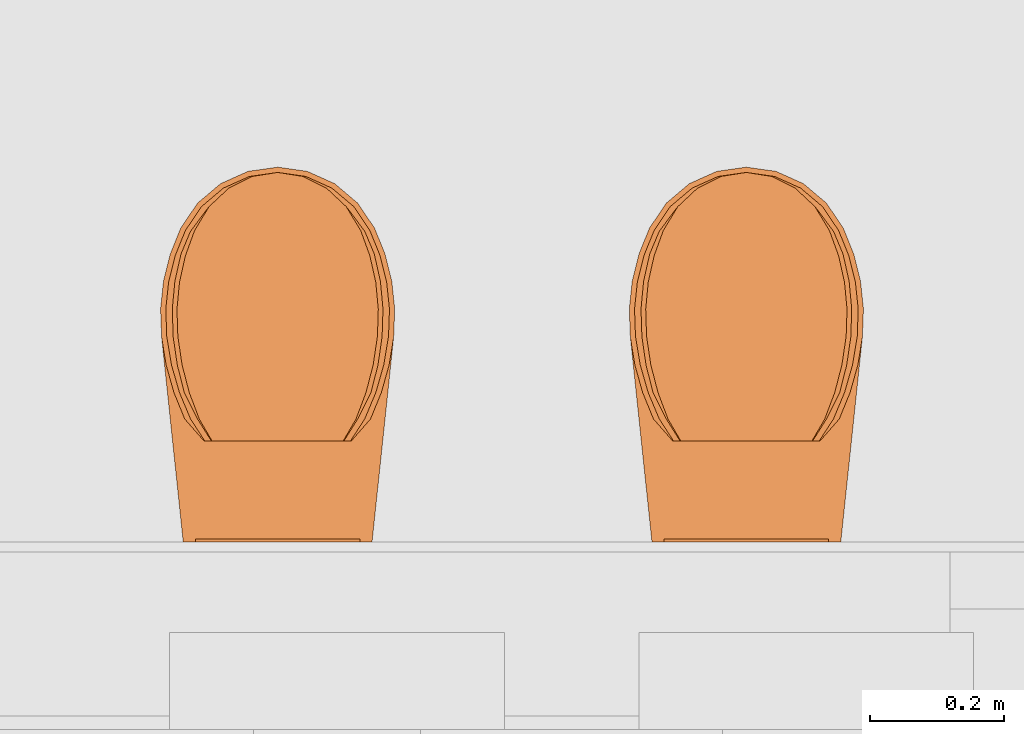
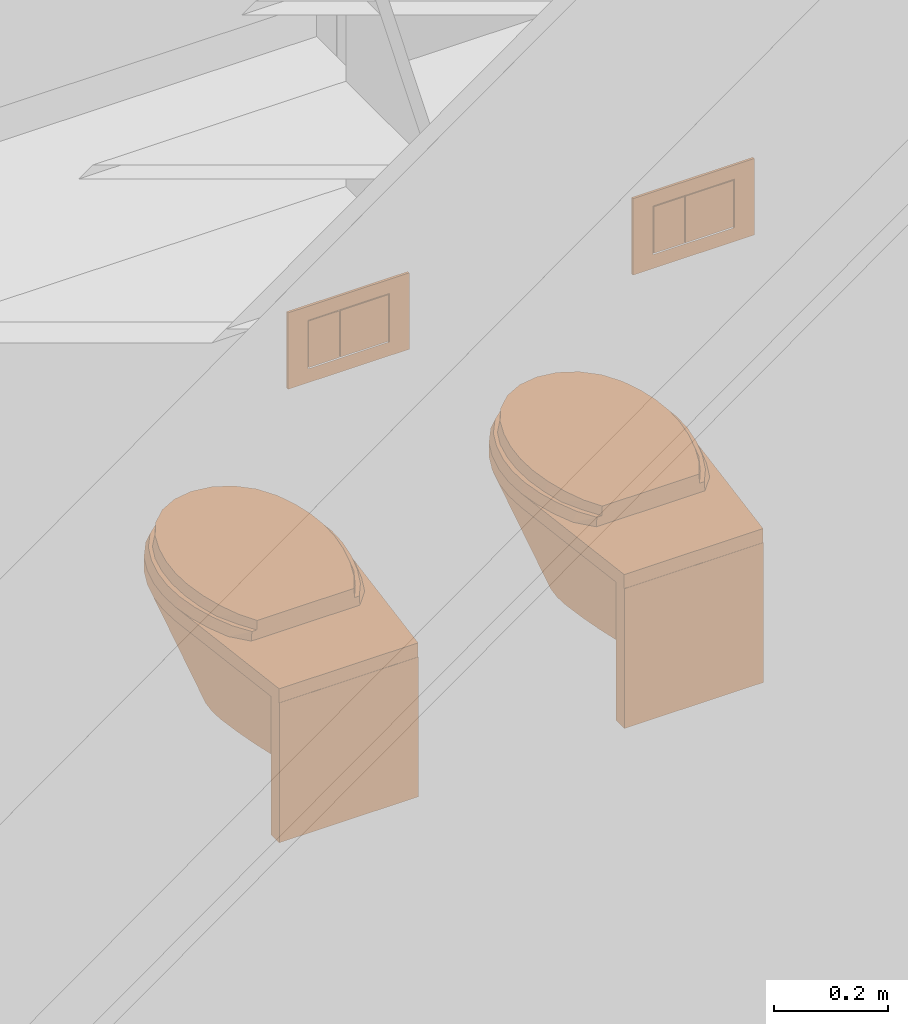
# One storey, part 109 of 167: 2 proxies.
"""IFC2X3 building model written with IfcOpenShell, lengths in millimetres."""

from ifc_helpers import new_model, entity, si_unit, converted_unit, derived_unit, money_unit, direction, frame, origin_with_axes, place, context, subcontext, project, spatial, open_shell, faceted_brep, surface_model, source, transform, mapped, type_object, type_shapes, element, save


model = new_model("IFC2X3")

# Units and contexts
model_context = context("Model", 3, precision=0.01, world=origin_with_axes(), true_north=direction((0.0, 1.0)))
plan_context = context("Plan", 3, precision=0.01, world=origin_with_axes(), true_north=direction((0.0, 1.0)))
body_context = subcontext(model_context, "Body", "Model", "MODEL_VIEW")
ifc_project = project(units=[si_unit("LENGTHUNIT", "METRE", prefix="MILLI"), si_unit("AREAUNIT", "SQUARE_METRE"), si_unit("VOLUMEUNIT", "CUBIC_METRE"), converted_unit("PLANEANGLEUNIT", "DEGREE", entity("IfcPlaneAngleMeasure", 0.0174532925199), si_unit("PLANEANGLEUNIT", "RADIAN"), dimensions=[0, 0, 0, 0, 0, 0, 0]), si_unit("SOLIDANGLEUNIT", "STERADIAN"), money_unit("EUR"), converted_unit("TIMEUNIT", "Year", entity("IfcTimeMeasure", 31556926.0), si_unit("TIMEUNIT", "SECOND"), dimensions=[0, 0, 1, 0, 0, 0, 0]), si_unit("MASSUNIT", "GRAM", prefix="KILO"), si_unit("THERMODYNAMICTEMPERATUREUNIT", "DEGREE_CELSIUS"), si_unit("LUMINOUSINTENSITYUNIT", "LUMEN"), si_unit("ENERGYUNIT", "JOULE", prefix="MEGA"), derived_unit("THERMALCONDUCTANCEUNIT", [(si_unit("POWERUNIT", "WATT"), 1), (si_unit("LENGTHUNIT", "METRE"), -1), (si_unit("THERMODYNAMICTEMPERATUREUNIT", "KELVIN"), -1)]), derived_unit("SPECIFICHEATCAPACITYUNIT", [(si_unit("ENERGYUNIT", "JOULE"), 1), (si_unit("MASSUNIT", "GRAM", prefix="KILO"), -1), (si_unit("THERMODYNAMICTEMPERATUREUNIT", "KELVIN"), -1)]), derived_unit("MASSDENSITYUNIT", [(si_unit("MASSUNIT", "GRAM", prefix="KILO"), 1), (si_unit("VOLUMEUNIT", "CUBIC_METRE"), -1)])], contexts=[model_context, plan_context])

# Site, building, storey
site_placement = place(None, origin_with_axes())
site = spatial("IfcSite", under=ifc_project, at=site_placement, Name="Site", CompositionType="ELEMENT")
building_placement = place(site_placement, origin_with_axes())
building = spatial("IfcBuilding", under=site, at=building_placement, Name="Naam gebouw", CompositionType="ELEMENT")
storey_placement = place(building_placement, origin_with_axes())
storey = spatial("IfcBuildingStorey", under=building, at=storey_placement, Name="Begane grond", CompositionType="ELEMENT", Elevation=0.0)

# Proxies
building_element_proxy_type = type_object("IfcBuildingElementProxyType", Name="Toilet 24", PredefinedType="NOTDEFINED")
shared_shape = source(origin_with_axes(), body_context, "Body", "SurfaceModel", [
    faceted_brep([(141.028331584, -29.3186537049, 70.0), (-141.028331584, -29.3186537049, 70.0), (-141.028331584, 0.494905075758, 70.0), (141.028331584, 0.494905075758, 70.0), (141.028331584, -29.3186537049, 370.0), (-141.028331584, -29.3186537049, 370.0), (-141.028331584, 0.494905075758, 370.0), (141.028331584, 0.494905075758, 370.0)], [[[0, 1, 2, 3]], [[1, 0, 4, 5]], [[2, 1, 5, 6]], [[3, 2, 6, 7]], [[0, 3, 7, 4]], [[5, 4, 7, 6]]]),
    faceted_brep([(0.0, -70.8916738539, 370.0), (29.2232249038, -74.3401088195, 370.0), (48.9681706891, -81.5929972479, 370.0), (48.9681706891, -29.3186537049, 370.0), (-48.9681706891, -29.3186537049, 370.0), (-48.9681706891, -81.5929972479, 370.0), (-29.2232249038, -74.3401088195, 370.0), (13.7012941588, -104.950683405, 120.0), (48.9681706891, -91.4215326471, 305.928931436), (25.9903462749, -111.50270984, 120.0), (48.9681706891, -132.92940311, 150.834999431), (48.9681706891, -162.865413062, 120.0), (48.9681706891, -29.3186537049, 120.0), (48.9681706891, -98.3265451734, 277.009109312), (48.9681706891, -115.60239829, 192.796015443), (48.9681706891, -128.161443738, 166.474594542), (-48.9681706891, -29.3186537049, 120.0), (-48.9681706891, -88.2509938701, 324.161469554), (-48.9681706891, -162.865413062, 120.0), (-48.9681706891, -136.95889879, 141.313409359), (-48.9681706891, -132.92940311, 150.834999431), (-48.9681706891, -121.830119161, 170.496419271), (-48.9681706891, -115.60239829, 192.796015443), (-48.9681706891, -107.087637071, 223.462569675), (-48.9681706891, -91.4215326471, 305.928931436), (-13.7012941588, -104.950683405, 120.0), (0.0, -102.688828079, 120.0), (35.5988807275, -121.669133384, 120.0), (41.5367611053, -134.401510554, 120.0), (-41.5367611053, -134.401510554, 120.0), (-25.9903462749, -111.50270984, 120.0), (-35.5988807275, -121.669133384, 120.0)], [[[0, 1, 2, 3, 4, 5, 6]], [[1, 0, 7]], [[8, 2, 1, 9]], [[10, 11, 12, 3, 2, 8, 13, 14, 15]], [[3, 12, 16, 4]], [[17, 5, 4, 16, 18, 19, 20, 21, 22, 23, 24]], [[6, 5, 17, 25]], [[0, 6, 26]], [[26, 7, 0]], [[7, 9, 1]], [[13, 8, 9, 27]], [[11, 10, 28]], [[29, 18, 16, 12, 11, 28, 27, 9, 7, 26, 25, 30, 31]], [[14, 13, 27]], [[15, 14, 27, 28]], [[10, 15, 28]], [[18, 29, 19]], [[20, 19, 29]], [[29, 31, 21, 20]], [[22, 21, 31]], [[31, 30, 23, 22]], [[24, 23, 30]], [[30, 25, 17, 24]], [[25, 26, 6]]]),
    surface_model("IfcShellBasedSurfaceModel", [(17.6912207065, -459.020482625, 120.0), (34.0279818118, -451.688334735, 120.0), (85.1820916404, -535.368037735, 370.0), (0.0, -461.527802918, 120.0), (-17.6912207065, -459.020482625, 120.0), (-34.0279818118, -451.688334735, 120.0), (-47.758656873, -440.093841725, 120.0), (-57.8323889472, -425.125447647, 120.0), (-68.2302903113, -399.418209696, 120.0), (-74.9438265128, -372.478677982, 120.0), (-77.8388247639, -344.846477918, 120.0), (-76.8575026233, -317.0761417, 120.0), (-70.9734872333, -270.86512559, 120.0), (-63.1150752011, -224.958207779, 120.0), (-53.2959776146, -179.441847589, 120.0), (-41.5367611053, -134.401510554, 120.0), (-35.5988807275, -121.669133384, 120.0), (-25.9903462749, -111.50270984, 120.0), (-13.7012941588, -104.950683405, 120.0), (0.0, -102.688828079, 120.0), (13.7012941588, -104.950683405, 120.0), (25.9903462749, -111.50270984, 120.0), (35.5988807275, -121.669133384, 120.0), (41.5367611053, -134.401510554, 120.0), (53.2959776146, -179.441847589, 120.0), (63.1150752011, -224.958207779, 120.0), (70.9734872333, -270.86512559, 120.0), (76.8575026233, -317.0761417, 120.0), (77.8388247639, -344.845484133, 120.0), (74.9438265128, -372.478677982, 120.0), (68.2302903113, -399.418209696, 120.0), (57.8323889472, -425.125447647, 120.0), (47.758656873, -440.093841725, 120.0), (119.554809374, -506.343544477, 370.0), (44.2868135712, -553.722258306, 370.0), (0.0, -560.0, 370.0), (-44.2868135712, -553.722258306, 370.0), (-85.1820916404, -535.368037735, 370.0), (-119.554809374, -506.343544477, 370.0), (-144.773417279, -468.871876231, 370.0), (-160.389366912, -430.260336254, 370.0), (-170.473871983, -389.797374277, 370.0), (-174.82224554, -348.294912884, 370.0), (-173.347324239, -306.584750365, 370.0), (-164.811192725, -257.295981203, 370.0), (-149.839664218, -209.61416286, 370.0), (-128.705001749, -164.398919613, 370.0), (-101.788177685, -122.466149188, 370.0), (-81.512416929, -100.834424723, 370.0), (-56.8863238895, -84.5015634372, 370.0), (-29.2232249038, -74.3401088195, 370.0), (0.0, -70.8916738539, 370.0), (29.2232249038, -74.3401088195, 370.0), (56.8863238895, -84.5015634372, 370.0), (81.512416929, -100.834424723, 370.0), (101.788177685, -122.466149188, 370.0), (128.705001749, -164.398919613, 370.0), (149.839664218, -209.61416286, 370.0), (164.811192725, -257.296974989, 370.0), (173.347324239, -306.584750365, 370.0), (174.82224554, -348.294912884, 370.0), (170.473871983, -389.797374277, 370.0), (160.390346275, -430.260336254, 370.0), (144.773417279, -468.871876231, 370.0)], [open_shell([[[0, 1, 2]], [[0, 3, 4, 5, 6, 7, 8, 9, 10, 11, 12, 13, 14, 15, 16, 17, 18, 19, 20, 21, 22, 23, 24, 25, 26, 27, 28, 29, 30, 31, 32, 1]], [[1, 33, 2]], [[0, 2, 34]], [[3, 0, 34]], [[4, 3, 35]], [[5, 4, 36]], [[6, 5, 37]], [[7, 6, 38]], [[8, 7, 39]], [[9, 8, 40]], [[10, 9, 41]], [[11, 10, 42]], [[12, 11, 43]], [[13, 12, 44]], [[14, 13, 45]], [[15, 14, 46]], [[16, 15, 47]], [[17, 16, 48]], [[18, 17, 49]], [[19, 18, 50]], [[20, 19, 51]], [[21, 20, 52]], [[22, 21, 53]], [[23, 22, 54]], [[24, 23, 55]], [[25, 24, 56]], [[26, 25, 57]], [[27, 26, 58]], [[28, 27, 59]], [[29, 28, 60]], [[30, 29, 61]], [[31, 30, 62]], [[32, 31, 63]], [[1, 32, 33]], [[3, 34, 35]], [[4, 35, 36]], [[5, 36, 37]], [[6, 37, 38]], [[7, 38, 39]], [[8, 39, 40]], [[9, 40, 41]], [[10, 41, 42]], [[11, 42, 43]], [[12, 43, 44]], [[13, 44, 45]], [[14, 45, 46]], [[15, 46, 47]], [[16, 47, 48]], [[17, 48, 49]], [[18, 49, 50]], [[19, 50, 51]], [[20, 51, 52]], [[21, 52, 53]], [[22, 53, 54]], [[23, 54, 55]], [[24, 55, 56]], [[25, 56, 57]], [[26, 57, 58]], [[27, 58, 59]], [[28, 59, 60]], [[29, 60, 61]], [[30, 61, 62]], [[31, 62, 63]], [[32, 63, 33]]])]),
    faceted_brep([(-173.347324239, -306.584750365, 370.0), (-174.82224554, -348.294912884, 370.0), (-174.82224554, -348.294912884, 400.0), (-173.347324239, -306.584750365, 400.0), (-140.973487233, 0.0, 370.0), (140.97544596, 0.0, 370.0), (173.347324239, -306.584750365, 370.0), (174.82224554, -348.294912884, 370.0), (170.473871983, -389.797374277, 370.0), (160.390346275, -430.260336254, 370.0), (144.773417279, -468.871876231, 370.0), (119.554809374, -506.343544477, 370.0), (85.1820916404, -535.368037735, 370.0), (44.2868135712, -553.722258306, 370.0), (0.0, -560.0, 370.0), (-44.2868135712, -553.722258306, 370.0), (-85.1820916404, -535.368037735, 370.0), (-119.554809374, -506.343544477, 370.0), (-144.773417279, -468.871876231, 370.0), (-160.389366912, -430.260336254, 370.0), (-170.473871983, -389.797374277, 370.0), (144.502133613, -309.721136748, 370.0), (129.388597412, -258.283803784, 370.0), (97.1352221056, -215.741842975, 370.0), (52.0130115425, -187.731010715, 370.0), (0.0, -177.963095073, 370.0), (-52.0130115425, -187.731010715, 370.0), (-97.1352221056, -215.741842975, 370.0), (-129.388597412, -258.283803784, 370.0), (-144.502133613, -309.721136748, 370.0), (-145.829171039, -347.26336375, 370.0), (-141.914655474, -384.619752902, 370.0), (-132.838894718, -421.039996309, 370.0), (-118.78209164, -455.793661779, 370.0), (-98.0920601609, -486.538397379, 370.0), (-69.8903112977, -510.352474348, 370.0), (-36.3363413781, -525.411302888, 370.0), (0.0, -530.56209206, 370.0), (36.3363413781, -525.411302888, 370.0), (69.8903112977, -510.352474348, 370.0), (98.0920601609, -486.538397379, 370.0), (118.78209164, -455.793661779, 370.0), (132.838894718, -421.039996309, 370.0), (141.914655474, -384.619752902, 370.0), (145.829171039, -347.26336375, 370.0), (-170.473871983, -389.797374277, 400.0), (-160.389366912, -430.260336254, 400.0), (-144.773417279, -468.871876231, 400.0), (-119.554809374, -506.343544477, 400.0), (-85.1820916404, -535.368037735, 400.0), (-44.2868135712, -553.722258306, 400.0), (0.0, -560.0, 400.0), (44.2868135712, -553.722258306, 400.0), (85.1820916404, -535.368037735, 400.0), (119.554809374, -506.343544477, 400.0), (144.773417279, -468.871876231, 400.0), (160.390346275, -430.260336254, 400.0), (170.473871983, -389.797374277, 400.0), (174.82224554, -348.294912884, 400.0), (173.347324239, -306.584750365, 400.0), (140.97544596, 0.0, 400.0), (-140.973487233, 0.0, 400.0), (144.502133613, -309.721136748, 400.0), (145.829171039, -347.26336375, 400.0), (141.914655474, -384.619752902, 400.0), (132.838894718, -421.039996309, 400.0), (118.78209164, -455.793661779, 400.0), (98.0920601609, -486.538397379, 400.0), (69.8903112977, -510.352474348, 400.0), (36.3363413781, -525.411302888, 400.0), (0.0, -530.56209206, 400.0), (-36.3363413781, -525.411302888, 400.0), (-69.8903112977, -510.352474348, 400.0), (-98.0920601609, -486.538397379, 400.0), (-118.78209164, -455.793661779, 400.0), (-132.838894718, -421.039996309, 400.0), (-141.914655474, -384.619752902, 400.0), (-145.829171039, -347.26336375, 400.0), (-144.502133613, -309.721136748, 400.0), (-129.388597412, -258.283803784, 400.0), (-97.1352221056, -215.741842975, 400.0), (-52.0130115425, -187.731010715, 400.0), (0.0, -177.963095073, 400.0), (52.0130115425, -187.731010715, 400.0), (97.1352221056, -215.741842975, 400.0), (129.388597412, -258.283803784, 400.0)], [[[0, 1, 2, 3]], [[0, 4, 5, 6, 7, 8, 9, 10, 11, 12, 13, 14, 15, 16, 17, 18, 19, 20, 1], [21, 22, 23, 24, 25, 26, 27, 28, 29, 30, 31, 32, 33, 34, 35, 36, 37, 38, 39, 40, 41, 42, 43, 44]], [[1, 20, 45, 2]], [[3, 2, 45, 46, 47, 48, 49, 50, 51, 52, 53, 54, 55, 56, 57, 58, 59, 60, 61], [62, 63, 64, 65, 66, 67, 68, 69, 70, 71, 72, 73, 74, 75, 76, 77, 78, 79, 80, 81, 82, 83, 84, 85]], [[4, 0, 3, 61]], [[5, 4, 61, 60]], [[6, 5, 60, 59]], [[7, 6, 59, 58]], [[8, 7, 58, 57]], [[9, 8, 57, 56]], [[10, 9, 56, 55]], [[11, 10, 55, 54]], [[12, 11, 54, 53]], [[13, 12, 53, 52]], [[14, 13, 52, 51]], [[15, 14, 51, 50]], [[16, 15, 50, 49]], [[17, 16, 49, 48]], [[18, 17, 48, 47]], [[19, 18, 47, 46]], [[20, 19, 46, 45]], [[22, 21, 62, 85]], [[23, 22, 85, 84]], [[24, 23, 84, 83]], [[25, 24, 83, 82]], [[26, 25, 82, 81]], [[27, 26, 81, 80]], [[28, 27, 80, 79]], [[29, 28, 79, 78]], [[30, 29, 78, 77]], [[31, 30, 77, 76]], [[32, 31, 76, 75]], [[33, 32, 75, 74]], [[34, 33, 74, 73]], [[35, 34, 73, 72]], [[36, 35, 72, 71]], [[37, 36, 71, 70]], [[38, 37, 70, 69]], [[39, 38, 69, 68]], [[40, 39, 68, 67]], [[41, 40, 67, 66]], [[42, 41, 66, 65]], [[43, 42, 65, 64]], [[44, 43, 64, 63]], [[21, 44, 63, 62]]]),
    surface_model("IfcShellBasedSurfaceModel", [(16.8066596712, -465.732925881, 220.0), (32.3265827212, -460.013850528, 220.0), (80.9229870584, -525.284018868, 370.0), (0.0, -467.68863571, 220.0), (-16.8066596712, -465.732925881, 220.0), (-32.3265827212, -460.013850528, 220.0), (-45.3707240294, -450.97014598, 220.0), (-54.9407694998, -439.294798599, 220.0), (-64.8187757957, -419.243152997, 220.0), (-71.1966351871, -398.23031826, 220.0), (-73.9468835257, -376.67720221, 220.0), (-73.0146274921, -355.01633996, 220.0), (-67.4248128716, -318.971747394, 220.0), (-59.9593214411, -283.164351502, 220.0), (-50.6311787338, -247.661590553, 220.0), (-39.45992305, -212.530127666, 220.0), (-33.8189366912, -202.598873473, 220.0), (-24.6908289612, -194.669063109, 220.0), (-13.0162294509, -189.55848249, 220.0), (0.0, -187.794235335, 220.0), (13.0162294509, -189.55848249, 220.0), (24.6908289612, -194.669063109, 220.0), (33.8189366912, -202.598873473, 220.0), (39.45992305, -212.530127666, 220.0), (50.6311787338, -247.661590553, 220.0), (59.9593214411, -283.164351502, 220.0), (67.4248128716, -318.971747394, 220.0), (73.0146274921, -355.01633996, 220.0), (73.9468835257, -376.676427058, 220.0), (71.1966351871, -398.23031826, 220.0), (64.8187757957, -419.243152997, 220.0), (54.9407694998, -439.294798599, 220.0), (45.3707240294, -450.97014598, 220.0), (113.577068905, -502.644914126, 370.0), (42.0724728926, -539.600310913, 370.0), (0.0, -544.496949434, 370.0), (-42.0724728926, -539.600310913, 370.0), (-80.9229870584, -525.284018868, 370.0), (-113.577068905, -502.644914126, 370.0), (-137.534746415, -473.417012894, 370.0), (-152.369898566, -443.300011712, 370.0), (-161.950178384, -411.73890137, 370.0), (-166.081133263, -379.366981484, 370.0), (-164.679958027, -346.833054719, 370.0), (-156.570633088, -308.387814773, 370.0), (-142.347681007, -271.195996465, 370.0), (-122.269751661, -235.928106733, 370.0), (-96.6987688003, -203.220545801, 370.0), (-77.4367960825, -186.347800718, 370.0), (-54.042007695, -173.608168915, 370.0), (-27.7620636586, -165.682234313, 370.0), (0.0, -162.99245504, 370.0), (27.7620636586, -165.682234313, 370.0), (54.042007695, -173.608168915, 370.0), (77.4367960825, -186.347800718, 370.0), (96.6987688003, -203.220545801, 370.0), (122.269751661, -235.928106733, 370.0), (142.347681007, -271.195996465, 370.0), (156.570633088, -308.388589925, 370.0), (164.679958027, -346.833054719, 370.0), (166.081133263, -379.366981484, 370.0), (161.950178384, -411.73890137, 370.0), (152.370828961, -443.300011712, 370.0), (137.534746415, -473.417012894, 370.0)], [open_shell([[[0, 1, 2]], [[0, 3, 4, 5, 6, 7, 8, 9, 10, 11, 12, 13, 14, 15, 16, 17, 18, 19, 20, 21, 22, 23, 24, 25, 26, 27, 28, 29, 30, 31, 32, 1]], [[1, 33, 2]], [[0, 2, 34]], [[3, 0, 34]], [[4, 3, 35]], [[5, 4, 36]], [[6, 5, 37]], [[7, 6, 38]], [[8, 7, 39]], [[9, 8, 40]], [[10, 9, 41]], [[11, 10, 42]], [[12, 11, 43]], [[13, 12, 44]], [[14, 13, 45]], [[15, 14, 46]], [[16, 15, 47]], [[17, 16, 48]], [[18, 17, 49]], [[19, 18, 50]], [[20, 19, 51]], [[21, 20, 52]], [[22, 21, 53]], [[23, 22, 54]], [[24, 23, 55]], [[25, 24, 56]], [[26, 25, 57]], [[27, 26, 58]], [[28, 27, 59]], [[29, 28, 60]], [[30, 29, 61]], [[31, 30, 62]], [[32, 31, 63]], [[1, 32, 33]], [[3, 34, 35]], [[4, 35, 36]], [[5, 36, 37]], [[6, 37, 38]], [[7, 38, 39]], [[8, 39, 40]], [[9, 40, 41]], [[10, 41, 42]], [[11, 42, 43]], [[12, 43, 44]], [[13, 44, 45]], [[14, 45, 46]], [[15, 46, 47]], [[16, 47, 48]], [[17, 48, 49]], [[18, 49, 50]], [[19, 50, 51]], [[20, 51, 52]], [[21, 52, 53]], [[22, 53, 54]], [[23, 54, 55]], [[24, 55, 56]], [[25, 56, 57]], [[26, 57, 58]], [[27, 58, 59]], [[28, 59, 60]], [[29, 60, 61]], [[30, 61, 62]], [[31, 62, 63]], [[32, 63, 33]]])]),
    faceted_brep([(0.0, -560.0, 400.0), (-44.2868135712, -553.722258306, 400.0), (-85.1820916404, -535.368037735, 400.0), (-119.554809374, -506.343544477, 400.0), (-144.773417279, -468.871876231, 400.0), (-160.389366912, -430.260336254, 400.0), (-170.473871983, -389.797374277, 400.0), (-174.82224554, -348.294912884, 400.0), (-173.347324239, -306.584750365, 400.0), (-166.466316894, -264.426390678, 400.0), (-154.871633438, -223.344300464, 400.0), (-138.715075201, -183.881086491, 400.0), (-110.192657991, -151.316352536, 400.0), (110.192657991, -151.316352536, 400.0), (138.715075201, -183.881086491, 400.0), (154.871633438, -223.344300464, 400.0), (166.466316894, -264.426390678, 400.0), (173.347324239, -306.584750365, 400.0), (174.82224554, -348.294912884, 400.0), (170.473871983, -389.797374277, 400.0), (160.390346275, -430.260336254, 400.0), (144.773417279, -468.871876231, 400.0), (119.554809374, -506.343544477, 400.0), (85.1820916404, -535.368037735, 400.0), (44.2868135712, -553.722258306, 400.0), (87.0768965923, -411.996361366, 400.0), (94.5108554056, -382.276303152, 400.0), (97.7160649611, -351.79832554, 400.0), (96.6142529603, -320.742930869, 400.0), (90.9929409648, -286.794273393, 400.0), (81.3288631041, -253.338107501, 400.0), (68.7544855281, -223.466323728, 400.0), (-68.7541287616, -223.466323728, 400.0), (-81.3289539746, -253.338422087, 400.0), (-90.9929409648, -286.794273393, 400.0), (-96.6142529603, -320.742930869, 400.0), (-97.7160649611, -351.79832554, 400.0), (-94.5108554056, -382.276303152, 400.0), (-87.0768965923, -411.996361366, 400.0), (-76.4888004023, -438.077570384, 400.0), (-62.0685687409, -459.426212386, 400.0), (-44.2610983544, -474.406756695, 400.0), (-23.0257994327, -483.902301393, 400.0), (0.0, -487.154466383, 400.0), (23.0257994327, -483.902301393, 400.0), (44.2610983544, -474.406756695, 400.0), (62.0685687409, -459.426212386, 400.0), (76.4888004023, -438.077570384, 400.0), (0.0, -552.094437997, 420.0), (-42.1518013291, -546.118807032, 420.0), (-81.0756208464, -528.649055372, 420.0), (-113.791255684, -501.024805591, 420.0), (-137.792514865, -465.359839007, 420.0), (-152.99027632, -427.78481709, 420.0), (-162.803497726, -388.407068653, 420.0), (-167.035327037, -348.017646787, 420.0), (-165.600559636, -307.427480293, 420.0), (-158.59027632, -264.933221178, 420.0), (-146.688072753, -223.575852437, 420.0), (-130.061420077, -183.931769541, 420.0), (-108.940468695, -151.316352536, 420.0), (108.940468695, -151.316352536, 420.0), (130.061420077, -183.930775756, 420.0), (146.688072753, -223.575852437, 420.0), (158.59027632, -264.933221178, 420.0), (165.600559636, -307.427480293, 420.0), (167.035327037, -348.017646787, 420.0), (162.803497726, -388.407068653, 420.0), (152.99027632, -427.78481709, 420.0), (137.792514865, -465.359839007, 420.0), (113.791255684, -501.024805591, 420.0), (81.0756208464, -528.649055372, 420.0), (42.1518013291, -546.118807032, 420.0), (87.0768965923, -411.996361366, 420.0), (94.5108554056, -382.276303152, 420.0), (97.7160649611, -351.79832554, 420.0), (96.6142529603, -320.742930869, 420.0), (90.9929409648, -286.794273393, 420.0), (81.3288631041, -253.338107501, 420.0), (68.7544855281, -223.466323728, 420.0), (-68.7541287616, -223.466323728, 420.0), (-81.3289539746, -253.338422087, 420.0), (-90.9929409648, -286.794273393, 420.0), (-96.6142529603, -320.742930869, 420.0), (-97.7160649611, -351.79832554, 420.0), (-94.5108554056, -382.276303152, 420.0), (-87.0768965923, -411.996361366, 420.0), (-76.4888004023, -438.077570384, 420.0), (-62.0685687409, -459.426212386, 420.0), (-44.2610983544, -474.406756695, 420.0), (-23.0257994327, -483.902301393, 420.0), (0.0, -487.154466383, 420.0), (23.0257994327, -483.902301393, 420.0), (44.2610983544, -474.406756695, 420.0), (62.0685687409, -459.426212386, 420.0), (76.4888004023, -438.077570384, 420.0)], [[[0, 1, 2, 3, 4, 5, 6, 7, 8, 9, 10, 11, 12, 13, 14, 15, 16, 17, 18, 19, 20, 21, 22, 23, 24], [25, 26, 27, 28, 29, 30, 31, 32, 33, 34, 35, 36, 37, 38, 39, 40, 41, 42, 43, 44, 45, 46, 47]], [[1, 0, 48]], [[2, 1, 49]], [[3, 2, 50]], [[4, 3, 51]], [[5, 4, 52]], [[6, 5, 53]], [[6, 54, 55, 7]], [[8, 7, 55]], [[9, 8, 56]], [[10, 9, 57]], [[11, 10, 58]], [[12, 11, 59]], [[12, 60, 61, 13]], [[14, 13, 61]], [[15, 14, 62]], [[16, 15, 63]], [[17, 16, 64]], [[18, 17, 65]], [[18, 66, 67, 19]], [[20, 19, 67]], [[20, 68, 69, 21]], [[22, 21, 69]], [[23, 22, 70]], [[24, 23, 71]], [[0, 24, 72]], [[73, 74, 26, 25]], [[74, 75, 27, 26]], [[75, 76, 28, 27]], [[76, 77, 29, 28]], [[77, 78, 30, 29]], [[78, 79, 31, 30]], [[79, 80, 32, 31]], [[80, 81, 33, 32]], [[81, 82, 34, 33]], [[82, 83, 35, 34]], [[83, 84, 36, 35]], [[84, 85, 37, 36]], [[85, 86, 38, 37]], [[86, 87, 39, 38]], [[87, 88, 40, 39]], [[88, 89, 41, 40]], [[89, 90, 42, 41]], [[90, 91, 43, 42]], [[91, 92, 44, 43]], [[92, 93, 45, 44]], [[93, 94, 46, 45]], [[94, 95, 47, 46]], [[95, 73, 25, 47]], [[0, 72, 48]], [[1, 48, 49]], [[2, 49, 50]], [[3, 50, 51]], [[4, 51, 52]], [[5, 52, 53]], [[6, 53, 54]], [[54, 53, 52, 51, 50, 49, 48, 72, 71, 70, 69, 68, 67, 66, 65, 64, 63, 62, 61, 60, 59, 58, 57, 56, 55], [77, 76, 75, 74, 73, 95, 94, 93, 92, 91, 90, 89, 88, 87, 86, 85, 84, 83, 82, 81, 80, 79, 78]], [[8, 55, 56]], [[9, 56, 57]], [[10, 57, 58]], [[11, 58, 59]], [[12, 59, 60]], [[14, 61, 62]], [[15, 62, 63]], [[16, 63, 64]], [[17, 64, 65]], [[18, 65, 66]], [[20, 67, 68]], [[22, 69, 70]], [[23, 70, 71]], [[24, 71, 72]]]),
    faceted_brep([(-107.599328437, -494.418120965, 420.0), (-76.6638824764, -519.467473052, 420.0), (-72.9680587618, -528.649055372, 440.0), (-130.296075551, -463.902949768, 420.0), (-144.35043022, -430.260336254, 420.0), (-153.426484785, -389.797374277, 420.0), (-157.340020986, -348.294912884, 420.0), (-156.012591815, -306.584750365, 420.0), (-149.819685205, -264.426390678, 420.0), (-139.384470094, -223.344300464, 420.0), (-119.555005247, -183.881086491, 420.0), (-99.1733921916, -151.316352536, 420.0), (99.1733921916, -151.316352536, 420.0), (119.555005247, -183.881086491, 420.0), (139.384470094, -223.344300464, 420.0), (149.819685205, -264.426390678, 420.0), (156.012591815, -306.584750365, 420.0), (157.340020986, -348.294912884, 420.0), (153.426484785, -389.797374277, 420.0), (144.351311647, -430.260336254, 420.0), (130.296075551, -463.902949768, 420.0), (107.599328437, -494.418120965, 420.0), (76.6638824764, -519.467473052, 420.0), (39.8581322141, -538.815478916, 420.0), (0.0, -545.09322061, 420.0), (-39.8581322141, -538.815478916, 420.0), (-37.9366211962, -546.118807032, 440.0), (-102.412130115, -501.024805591, 440.0), (-124.013263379, -465.359839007, 440.0), (-137.691248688, -427.78481709, 440.0), (-146.523147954, -388.407068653, 440.0), (-150.331794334, -348.017646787, 440.0), (-149.040503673, -307.427480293, 440.0), (-142.731248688, -264.933221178, 440.0), (-132.019265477, -223.575852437, 440.0), (-117.055278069, -183.931769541, 440.0), (-98.0464218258, -151.316352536, 440.0), (98.0464218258, -151.316352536, 440.0), (117.055278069, -183.930775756, 440.0), (132.019265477, -223.575852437, 440.0), (142.731248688, -264.933221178, 440.0), (149.040503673, -307.427480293, 440.0), (150.331794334, -348.017646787, 440.0), (146.523147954, -388.407068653, 440.0), (137.691248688, -427.78481709, 440.0), (124.013263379, -465.359839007, 440.0), (102.412130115, -501.024805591, 440.0), (72.9680587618, -528.649055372, 440.0), (37.9366211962, -546.118807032, 440.0), (0.0, -552.094437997, 440.0)], [[[0, 1, 2]], [[0, 3, 4, 5, 6, 7, 8, 9, 10, 11, 12, 13, 14, 15, 16, 17, 18, 19, 20, 21, 22, 23, 24, 25, 1]], [[1, 26, 2]], [[0, 2, 27]], [[3, 0, 27]], [[4, 3, 28]], [[5, 4, 29]], [[6, 5, 30, 31]], [[7, 6, 31]], [[8, 7, 32]], [[9, 8, 33]], [[10, 9, 34]], [[11, 10, 35]], [[12, 11, 36, 37]], [[13, 12, 37]], [[14, 13, 38]], [[15, 14, 39]], [[16, 15, 40]], [[17, 16, 41]], [[18, 17, 42, 43]], [[19, 18, 43]], [[20, 19, 44]], [[21, 20, 45]], [[22, 21, 46]], [[23, 22, 47]], [[24, 23, 48]], [[25, 24, 49]], [[1, 25, 26]], [[27, 2, 26, 49, 48, 47, 46, 45, 44, 43, 42, 41, 40, 39, 38, 37, 36, 35, 34, 33, 32, 31, 30, 29, 28]], [[3, 27, 28]], [[4, 28, 29]], [[5, 29, 30]], [[7, 31, 32]], [[8, 32, 33]], [[9, 33, 34]], [[10, 34, 35]], [[11, 35, 36]], [[13, 37, 38]], [[14, 38, 39]], [[15, 39, 40]], [[16, 40, 41]], [[17, 41, 42]], [[19, 43, 44]], [[20, 44, 45]], [[21, 45, 46]], [[22, 46, 47]], [[23, 47, 48]], [[24, 48, 49]], [[25, 49, 26]]]),
    faceted_brep([(-83.0, 0.0, 1036.0), (-83.0, 0.0, 1170.0), (-83.0, -5.0, 1170.0), (-83.0, -5.0, 1036.0), (-123.0, 0.0, 1036.0), (-123.0, 0.0, 1200.0), (123.0, 0.0, 1200.0), (123.0, 0.0, 1036.0), (83.0, 0.0, 1036.0), (83.0, 0.0, 1170.0), (83.0, -5.0, 1170.0), (83.0, -5.0, 1036.0), (123.0, -5.0, 1036.0), (123.0, -5.0, 1200.0), (-123.0, -5.0, 1200.0), (-123.0, -5.0, 1036.0)], [[[0, 1, 2, 3]], [[0, 4, 5, 6, 7, 8, 9, 1]], [[1, 9, 10, 2]], [[3, 2, 10, 11, 12, 13, 14, 15]], [[4, 0, 3, 15]], [[5, 4, 15, 14]], [[6, 5, 14, 13]], [[7, 6, 13, 12]], [[8, 7, 12, 11]], [[9, 8, 11, 10]]]),
    faceted_brep([(83.0, 0.0, 1066.0), (-83.0, 0.0, 1066.0), (-83.0, -5.0, 1036.0), (83.0, -5.0, 1036.0), (83.0, 0.0, 1036.0), (-83.0, 0.0, 1036.0)], [[[0, 1, 2, 3]], [[1, 0, 4, 5]], [[1, 5, 2]], [[3, 2, 5, 4]], [[4, 0, 3]]]),
    faceted_brep([(-81.0, 0.0, 1068.0), (17.0, 0.0, 1068.0), (17.0, -5.0, 1068.0), (-81.0, -5.0, 1068.0), (-81.0, 0.0, 1168.0), (17.0, 0.0, 1168.0), (17.0, -5.0, 1168.0), (-81.0, -5.0, 1168.0)], [[[0, 1, 2, 3]], [[0, 4, 5, 1]], [[1, 5, 6, 2]], [[3, 2, 6, 7]], [[4, 0, 3, 7]], [[5, 4, 7, 6]]]),
    faceted_brep([(19.0, 0.0, 1168.0), (19.0, 0.0, 1068.0), (19.0, -5.0, 1068.0), (19.0, -5.0, 1168.0), (81.0, 0.0, 1168.0), (81.0, 0.0, 1068.0), (81.0, -5.0, 1068.0), (81.0, -5.0, 1168.0)], [[[0, 1, 2, 3]], [[0, 4, 5, 1]], [[1, 5, 6, 2]], [[3, 2, 6, 7]], [[4, 0, 3, 7]], [[5, 4, 7, 6]]]),
])
type_shapes(building_element_proxy_type, [shared_shape])
for number, where, z_axis, x_axis in (
    (1, (31663.0, 31579.9997696, 0.0), (0.0, 0.0, 1.0), (-1.0, 0.0, 0.0)),
    (2, (32363.0, 31579.9997738, 0.0), (0.0, 0.0, 1.0), (-1.0, 0.0, 0.0)),
):
    element("IfcBuildingElementProxy", number, at=place(storey_placement, frame(where, z_axis=z_axis, x_axis=x_axis)), inside=storey, type_object=building_element_proxy_type, Name="__FU - 003", context=body_context, shape_type="MappedRepresentation", body=[
        mapped(shared_shape, transform((0.0, 0.0, 0.0))),
    ])

save(model, "model.ifc")
